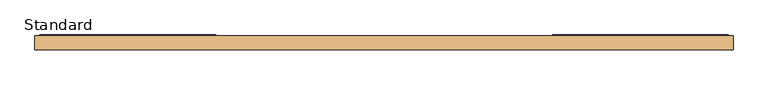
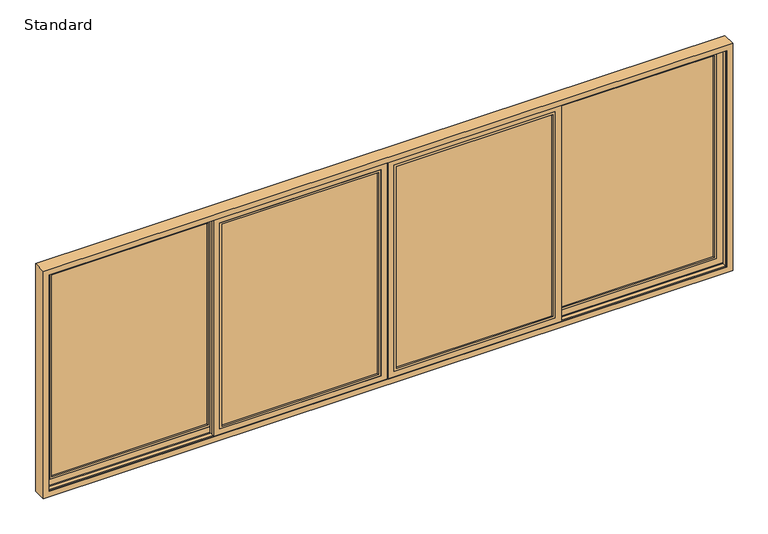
"""IFC4 building model written with IfcOpenShell, lengths in millimetres: door geometry, SMARTS_Visoglide Plus : Standard."""

from ifc_helpers import new_model, si_unit, frame, origin, place, context, project, spatial, polyline, outline, extrude, faceted_brep, source, transform, mapped, element, save


def standard_4e310cbc(model_context):
    return source(origin(), model_context, "Body", "SolidModel", [
        extrude(outline(polyline([(2893.5, 0.0), (1505.0, 0.0), (1505.0, 4.0), (2893.5, 4.0), (2893.5, 0.0)])), frame((0.0, 0.0, 907.5), z_axis=(0.0, 0.0, 1.0), x_axis=(1.0, 0.0, 0.0)), (0.0, 0.0, 1.0), 1885.0),
        extrude(outline(polyline([(2893.5, 20.0), (1505.0, 20.0), (1505.0, 24.0), (2893.5, 24.0), (2893.5, 20.0)])), frame((0.0, 0.0, 907.5), z_axis=(0.0, 0.0, 1.0), x_axis=(1.0, 0.0, 0.0)), (0.0, 0.0, 1.0), 1885.0),
        extrude(outline(polyline([(2792.5, 1505.0), (907.5, 1505.0), (907.5, 2893.5), (2792.5, 2893.5), (2792.5, 1505.0)]), holes=[polyline([(2782.5, 2883.5), (917.5, 2883.5), (917.5, 1515.0), (2782.5, 1515.0), (2782.5, 2883.5)])]), frame((0.0, 4.0, 0.0), z_axis=(0.0, 1.0, 0.0), x_axis=(0.0, 0.0, 1.0)), (0.0, 0.0, 1.0), 16.0),
        extrude(outline(polyline([(2797.5, 2898.5), (2797.5, 1500.0), (902.5, 1500.0), (902.5, 2898.5), (2797.5, 2898.5)]), holes=[polyline([(922.5, 2878.5), (922.5, 1520.0), (2777.5, 1520.0), (2777.5, 2878.5), (922.5, 2878.5)])]), frame((0.0, -19.0, 0.0), z_axis=(0.0, 1.0, 0.0), x_axis=(0.0, 0.0, 1.0)), (0.0, 0.0, 1.0), 11.9897777),
        extrude(outline(polyline([(2851.5, 2952.5), (2851.5, 1446.0), (848.5, 1446.0), (848.5, 2952.5), (2851.5, 2952.5)]), holes=[polyline([(902.5, 2898.5), (902.5, 1500.0), (2797.5, 1500.0), (2797.5, 2898.5), (902.5, 2898.5)])]), frame((0.0, -19.0, 0.0), z_axis=(0.0, 1.0, 0.0), x_axis=(0.0, 0.0, 1.0)), (0.0, 0.0, 1.0), 24.0),
        faceted_brep([(2878.5, 28.0, 2777.5), (2878.5, 32.0, 2777.5), (2878.5, 32.0, 922.5), (2878.5, 28.0, 922.5), (2901.5, 5.0, 2800.5), (2901.5, 28.0, 2800.5), (2901.5, 28.0, 899.5), (2901.5, 5.0, 899.5), (2952.5, 32.0, 2851.5), (2952.5, 5.0, 2851.5), (2952.5, 5.0, 848.5), (2952.5, 32.0, 848.5), (1520.0, 32.0, 922.5), (1520.0, 28.0, 922.5), (1497.0, 28.0, 899.5), (1497.0, 5.0, 899.5), (1446.0, 5.0, 848.5), (1446.0, 32.0, 848.5), (1520.0, 32.0, 2777.5), (1520.0, 28.0, 2777.5), (1497.0, 28.0, 2800.5), (1497.0, 5.0, 2800.5), (1446.0, 5.0, 2851.5), (1446.0, 32.0, 2851.5)], [[[0, 1, 2, 3]], [[4, 5, 6, 7]], [[8, 9, 10, 11]], [[3, 2, 12, 13]], [[7, 6, 14, 15]], [[11, 10, 16, 17]], [[13, 12, 18, 19]], [[15, 14, 20, 21]], [[17, 16, 22, 23]], [[11, 17, 23, 8], [1, 18, 12, 2]], [[19, 18, 1, 0]], [[5, 20, 14, 6], [3, 13, 19, 0]], [[21, 20, 5, 4]], [[9, 22, 16, 10], [7, 15, 21, 4]], [[23, 22, 9, 8]]]),
        extrude(outline(polyline([(1452.0, -67.0), (63.5, -67.0), (63.5, -63.0), (1452.0, -63.0), (1452.0, -67.0)])), frame((0.0, 0.0, 907.5), z_axis=(0.0, 0.0, 1.0), x_axis=(1.0, 0.0, 0.0)), (0.0, 0.0, 1.0), 1885.0),
        extrude(outline(polyline([(1452.0, -47.0), (63.5, -47.0), (63.5, -43.0), (1452.0, -43.0), (1452.0, -47.0)])), frame((0.0, 0.0, 907.5), z_axis=(0.0, 0.0, 1.0), x_axis=(1.0, 0.0, 0.0)), (0.0, 0.0, 1.0), 1885.0),
        extrude(outline(polyline([(2792.5, 63.5), (907.5, 63.5), (907.5, 1452.0), (2792.5, 1452.0), (2792.5, 63.5)]), holes=[polyline([(2782.5, 1442.0), (917.5, 1442.0), (917.5, 73.5), (2782.5, 73.5), (2782.5, 1442.0)])]), frame((0.0, -63.0, 0.0), z_axis=(0.0, 1.0, 0.0), x_axis=(0.0, 0.0, 1.0)), (0.0, 0.0, 1.0), 16.0),
        extrude(outline(polyline([(2797.5, 1457.0), (2797.5, 58.5), (902.5, 58.5), (902.5, 1457.0), (2797.5, 1457.0)]), holes=[polyline([(922.5, 1437.0), (922.5, 78.5), (2777.5, 78.5), (2777.5, 1437.0), (922.5, 1437.0)])]), frame((0.0, -86.0, 0.0), z_axis=(0.0, 1.0, 0.0), x_axis=(0.0, 0.0, 1.0)), (0.0, 0.0, 1.0), 11.9897777),
        extrude(outline(polyline([(2851.5, 1511.0), (2851.5, 4.5), (848.5, 4.5), (848.5, 1511.0), (2851.5, 1511.0)]), holes=[polyline([(902.5, 1457.0), (902.5, 58.5), (2797.5, 58.5), (2797.5, 1457.0), (902.5, 1457.0)])]), frame((0.0, -86.0, 0.0), z_axis=(0.0, 1.0, 0.0), x_axis=(0.0, 0.0, 1.0)), (0.0, 0.0, 1.0), 24.0),
        faceted_brep([(1437.0, -39.0, 2777.5), (1437.0, -35.0, 2777.5), (1437.0, -35.0, 922.5), (1437.0, -39.0, 922.5), (1460.0, -62.0, 2800.5), (1460.0, -39.0, 2800.5), (1460.0, -39.0, 899.5), (1460.0, -62.0, 899.5), (1511.0, -35.0, 2851.5), (1511.0, -62.0, 2851.5), (1511.0, -62.0, 848.5), (1511.0, -35.0, 848.5), (78.5, -35.0, 922.5), (78.5, -39.0, 922.5), (55.5, -39.0, 899.5), (55.5, -62.0, 899.5), (4.5, -62.0, 848.5), (4.5, -35.0, 848.5), (78.5, -35.0, 2777.5), (78.5, -39.0, 2777.5), (55.5, -39.0, 2800.5), (55.5, -62.0, 2800.5), (4.5, -62.0, 2851.5), (4.5, -35.0, 2851.5)], [[[0, 1, 2, 3]], [[4, 5, 6, 7]], [[8, 9, 10, 11]], [[3, 2, 12, 13]], [[7, 6, 14, 15]], [[11, 10, 16, 17]], [[13, 12, 18, 19]], [[15, 14, 20, 21]], [[17, 16, 22, 23]], [[11, 17, 23, 8], [1, 18, 12, 2]], [[19, 18, 1, 0]], [[5, 20, 14, 6], [3, 13, 19, 0]], [[21, 20, 5, 4]], [[9, 22, 16, 10], [7, 15, 21, 4]], [[23, 22, 9, 8]]]),
        extrude(outline(polyline([(-62.5, -67.0), (-1451.0, -67.0), (-1451.0, -63.0), (-62.5, -63.0), (-62.5, -67.0)])), frame((0.0, 0.0, 907.5), z_axis=(0.0, 0.0, 1.0), x_axis=(1.0, 0.0, 0.0)), (0.0, 0.0, 1.0), 1885.0),
        extrude(outline(polyline([(-62.5, -47.0), (-1451.0, -47.0), (-1451.0, -43.0), (-62.5, -43.0), (-62.5, -47.0)])), frame((0.0, 0.0, 907.5), z_axis=(0.0, 0.0, 1.0), x_axis=(1.0, 0.0, 0.0)), (0.0, 0.0, 1.0), 1885.0),
        extrude(outline(polyline([(2792.5, -1451.0), (907.5, -1451.0), (907.5, -62.5), (2792.5, -62.5), (2792.5, -1451.0)]), holes=[polyline([(2782.5, -72.5), (917.5, -72.5), (917.5, -1441.0), (2782.5, -1441.0), (2782.5, -72.5)])]), frame((0.0, -63.0, 0.0), z_axis=(0.0, 1.0, 0.0), x_axis=(0.0, 0.0, 1.0)), (0.0, 0.0, 1.0), 16.0),
        extrude(outline(polyline([(2797.5, -57.5), (2797.5, -1456.0), (902.5, -1456.0), (902.5, -57.5), (2797.5, -57.5)]), holes=[polyline([(922.5, -77.5), (922.5, -1436.0), (2777.5, -1436.0), (2777.5, -77.5), (922.5, -77.5)])]), frame((0.0, -86.0, 0.0), z_axis=(0.0, 1.0, 0.0), x_axis=(0.0, 0.0, 1.0)), (0.0, 0.0, 1.0), 11.9897777),
        extrude(outline(polyline([(2851.5, -3.5), (2851.5, -1510.0), (848.5, -1510.0), (848.5, -3.5), (2851.5, -3.5)]), holes=[polyline([(902.5, -57.5), (902.5, -1456.0), (2797.5, -1456.0), (2797.5, -57.5), (902.5, -57.5)])]), frame((0.0, -86.0, 0.0), z_axis=(0.0, 1.0, 0.0), x_axis=(0.0, 0.0, 1.0)), (0.0, 0.0, 1.0), 24.0),
        faceted_brep([(-77.5, -39.0, 2777.5), (-77.5, -35.0, 2777.5), (-77.5, -35.0, 922.5), (-77.5, -39.0, 922.5), (-54.5, -62.0, 2800.5), (-54.5, -39.0, 2800.5), (-54.5, -39.0, 899.5), (-54.5, -62.0, 899.5), (-3.5, -35.0, 2851.5), (-3.5, -62.0, 2851.5), (-3.5, -62.0, 848.5), (-3.5, -35.0, 848.5), (-1436.0, -35.0, 922.5), (-1436.0, -39.0, 922.5), (-1459.0, -39.0, 899.5), (-1459.0, -62.0, 899.5), (-1510.0, -62.0, 848.5), (-1510.0, -35.0, 848.5), (-1436.0, -35.0, 2777.5), (-1436.0, -39.0, 2777.5), (-1459.0, -39.0, 2800.5), (-1459.0, -62.0, 2800.5), (-1510.0, -62.0, 2851.5), (-1510.0, -35.0, 2851.5)], [[[0, 1, 2, 3]], [[4, 5, 6, 7]], [[8, 9, 10, 11]], [[3, 2, 12, 13]], [[7, 6, 14, 15]], [[11, 10, 16, 17]], [[13, 12, 18, 19]], [[15, 14, 20, 21]], [[17, 16, 22, 23]], [[11, 17, 23, 8], [1, 18, 12, 2]], [[19, 18, 1, 0]], [[5, 20, 14, 6], [3, 13, 19, 0]], [[21, 20, 5, 4]], [[9, 22, 16, 10], [7, 15, 21, 4]], [[23, 22, 9, 8]]]),
        extrude(outline(polyline([(-1504.0, 0.0), (-2892.5, 0.0), (-2892.5, 4.0), (-1504.0, 4.0), (-1504.0, 0.0)])), frame((0.0, 0.0, 907.5), z_axis=(0.0, 0.0, 1.0), x_axis=(1.0, 0.0, 0.0)), (0.0, 0.0, 1.0), 1885.0),
        extrude(outline(polyline([(-1504.0, 20.0), (-2892.5, 20.0), (-2892.5, 24.0), (-1504.0, 24.0), (-1504.0, 20.0)])), frame((0.0, 0.0, 907.5), z_axis=(0.0, 0.0, 1.0), x_axis=(1.0, 0.0, 0.0)), (0.0, 0.0, 1.0), 1885.0),
        extrude(outline(polyline([(2792.5, -2892.5), (907.5, -2892.5), (907.5, -1504.0), (2792.5, -1504.0), (2792.5, -2892.5)]), holes=[polyline([(2782.5, -1514.0), (917.5, -1514.0), (917.5, -2882.5), (2782.5, -2882.5), (2782.5, -1514.0)])]), frame((0.0, 4.0, 0.0), z_axis=(0.0, 1.0, 0.0), x_axis=(0.0, 0.0, 1.0)), (0.0, 0.0, 1.0), 16.0),
        extrude(outline(polyline([(2797.5, -1499.0), (2797.5, -2897.5), (902.5, -2897.5), (902.5, -1499.0), (2797.5, -1499.0)]), holes=[polyline([(922.5, -1519.0), (922.5, -2877.5), (2777.5, -2877.5), (2777.5, -1519.0), (922.5, -1519.0)])]), frame((0.0, -19.0, 0.0), z_axis=(0.0, 1.0, 0.0), x_axis=(0.0, 0.0, 1.0)), (0.0, 0.0, 1.0), 11.9897777),
        extrude(outline(polyline([(2851.5, -1445.0), (2851.5, -2951.5), (848.5, -2951.5), (848.5, -1445.0), (2851.5, -1445.0)]), holes=[polyline([(902.5, -1499.0), (902.5, -2897.5), (2797.5, -2897.5), (2797.5, -1499.0), (902.5, -1499.0)])]), frame((0.0, -19.0, 0.0), z_axis=(0.0, 1.0, 0.0), x_axis=(0.0, 0.0, 1.0)), (0.0, 0.0, 1.0), 24.0),
        faceted_brep([(-1519.0, 28.0, 2777.5), (-1519.0, 32.0, 2777.5), (-1519.0, 32.0, 922.5), (-1519.0, 28.0, 922.5), (-1496.0, 5.0, 2800.5), (-1496.0, 28.0, 2800.5), (-1496.0, 28.0, 899.5), (-1496.0, 5.0, 899.5), (-1445.0, 32.0, 2851.5), (-1445.0, 5.0, 2851.5), (-1445.0, 5.0, 848.5), (-1445.0, 32.0, 848.5), (-2877.5, 32.0, 922.5), (-2877.5, 28.0, 922.5), (-2900.5, 28.0, 899.5), (-2900.5, 5.0, 899.5), (-2951.5, 5.0, 848.5), (-2951.5, 32.0, 848.5), (-2877.5, 32.0, 2777.5), (-2877.5, 28.0, 2777.5), (-2900.5, 28.0, 2800.5), (-2900.5, 5.0, 2800.5), (-2951.5, 5.0, 2851.5), (-2951.5, 32.0, 2851.5)], [[[0, 1, 2, 3]], [[4, 5, 6, 7]], [[8, 9, 10, 11]], [[3, 2, 12, 13]], [[7, 6, 14, 15]], [[11, 10, 16, 17]], [[13, 12, 18, 19]], [[15, 14, 20, 21]], [[17, 16, 22, 23]], [[11, 17, 23, 8], [1, 18, 12, 2]], [[19, 18, 1, 0]], [[5, 20, 14, 6], [3, 13, 19, 0]], [[21, 20, 5, 4]], [[9, 22, 16, 10], [7, 15, 21, 4]], [[23, 22, 9, 8]]]),
        faceted_brep([(2995.0, -95.0, 2895.0), (2995.0, 22.7989407, 2895.0), (-2995.0, 22.7989407, 2895.0), (-2995.0, -95.0, 2895.0), (2943.1999999, -91.0, 2843.1999999), (2943.1999999, -95.0, 2843.1999999), (-2943.1999999, -95.0, 2843.1999999), (-2943.1999999, -91.0, 2843.1999999), (2969.1999999, -76.3, 2869.1999999), (2969.1999999, -91.0, 2869.1999999), (-2969.1999999, -91.0, 2869.1999999), (-2969.1999999, -76.3, 2869.1999999), (2943.1999999, -43.7842251, 2843.1999999), (2943.1999999, -76.3, 2843.1999999), (-2943.1999999, -76.3, 2843.1999999), (-2943.1999999, -43.7842251, 2843.1999999), (2969.1999999, -9.7842251, 2869.1999999), (2969.1999999, -43.7842251, 2869.1999999), (-2969.1999999, -43.7842251, 2869.1999999), (-2969.1999999, -9.7842251, 2869.1999999), (2943.1999999, 22.7989407, 2843.1999999), (2943.1999999, -9.7842251, 2843.1999999), (-2943.1999999, -9.7842251, 2843.1999999), (-2943.1999999, 22.7989407, 2843.1999999), (-2995.0, 22.7989407, 805.0), (-2995.0, -95.0, 805.0), (-2943.1999999, -95.0, 856.8000001), (-2943.1999999, -91.0, 856.8000001), (-2969.1999999, -91.0, 830.8000001), (-2969.1999999, -76.3, 830.8000001), (-2943.1999999, -76.3, 856.8000001), (-2943.1999999, -43.7842251, 856.8000001), (-2969.1999999, -43.7842251, 830.8000001), (-2969.1999999, -9.7842251, 830.8000001), (-2943.1999999, -9.7842251, 856.8000001), (-2943.1999999, 22.7989407, 856.8000001), (2995.0, 22.7989407, 805.0), (2995.0, -95.0, 805.0), (2943.1999999, -95.0, 856.8000001), (2943.1999999, -91.0, 856.8000001), (2969.1999999, -91.0, 830.8000001), (2969.1999999, -76.3, 830.8000001), (2943.1999999, -76.3, 856.8000001), (2943.1999999, -43.7842251, 856.8000001), (2969.1999999, -43.7842251, 830.8000001), (2969.1999999, -9.7842251, 830.8000001), (2943.1999999, -9.7842251, 856.8000001), (2943.1999999, 22.7989407, 856.8000001)], [[[0, 1, 2, 3]], [[4, 5, 6, 7]], [[8, 9, 10, 11]], [[12, 13, 14, 15]], [[16, 17, 18, 19]], [[20, 21, 22, 23]], [[3, 2, 24, 25]], [[7, 6, 26, 27]], [[11, 10, 28, 29]], [[15, 14, 30, 31]], [[19, 18, 32, 33]], [[23, 22, 34, 35]], [[25, 24, 36, 37]], [[27, 26, 38, 39]], [[29, 28, 40, 41]], [[31, 30, 42, 43]], [[33, 32, 44, 45]], [[35, 34, 46, 47]], [[37, 36, 1, 0]], [[3, 25, 37, 0], [5, 38, 26, 6]], [[39, 38, 5, 4]], [[9, 40, 28, 10], [7, 27, 39, 4]], [[41, 40, 9, 8]], [[11, 29, 41, 8], [13, 42, 30, 14]], [[43, 42, 13, 12]], [[17, 44, 32, 18], [15, 31, 43, 12]], [[45, 44, 17, 16]], [[19, 33, 45, 16], [21, 46, 34, 22]], [[47, 46, 21, 20]], [[1, 36, 24, 2], [23, 35, 47, 20]]]),
    ])


if __name__ == "__main__":
    model = new_model("IFC4")
    model_context = context("Model", 3, world=origin())
    ifc_project = project(units=[si_unit("LENGTHUNIT", "METRE", prefix="MILLI")], contexts=[model_context])
    site = spatial("IfcSite", under=ifc_project)
    building = spatial("IfcBuilding", under=site)
    placement = place(None, origin())
    standard_shape = standard_4e310cbc(model_context)
    element("IfcDoor", 1, ObjectType="SMARTS_Visoglide Plus : Standard", at=placement, inside=building, context=model_context, shape_type="MappedRepresentation", body=[
        mapped(standard_shape, transform((0.0, 0.0, 0.0), x_axis=(1.0, 0.0, 0.0), y_axis=(0.0, 1.0, 0.0), z_axis=(0.0, 0.0, 1.0))),
    ])
    save(model, "model.ifc")
